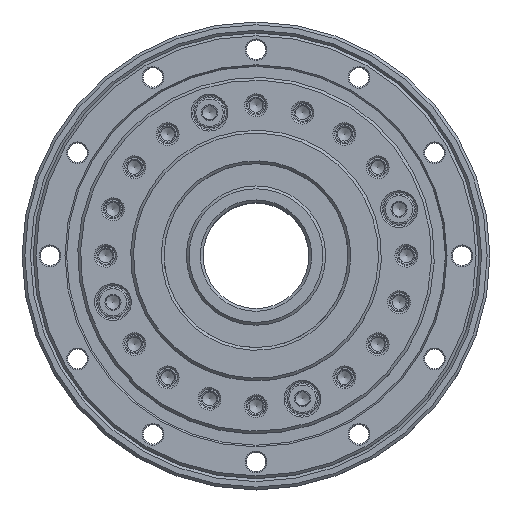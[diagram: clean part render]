
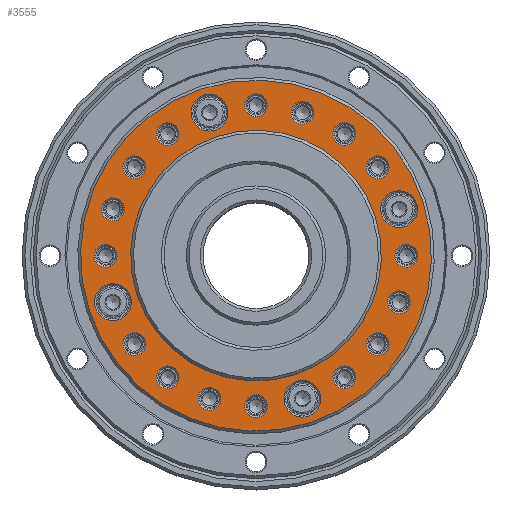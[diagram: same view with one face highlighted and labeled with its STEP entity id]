
A CAD part, top view. The second image highlights one B-rep face of the part: STEP entity #3555.
In plain terms, the highlighted planar face has unit normal (0, 0, 1).
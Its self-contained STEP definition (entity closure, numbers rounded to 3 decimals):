
#3555=ADVANCED_FACE('',(#5006,#5007,#5008,#5009,#5010,#5011,#5012,#5013,
#5014,#5015,#5016,#5017,#5018,#5019,#5020,#5021,#5022,#5023,#5024,#5025,
#5026,#5027),#3922,.T.);
#3922=PLANE('',#14643);
#5006=FACE_BOUND('',#6643,.T.);
#5007=FACE_BOUND('',#6644,.T.);
#5008=FACE_BOUND('',#6645,.T.);
#5009=FACE_BOUND('',#6646,.T.);
#5010=FACE_BOUND('',#6647,.T.);
#5011=FACE_BOUND('',#6648,.T.);
#5012=FACE_BOUND('',#6649,.T.);
#5013=FACE_BOUND('',#6650,.T.);
#5014=FACE_BOUND('',#6651,.T.);
#5015=FACE_BOUND('',#6652,.T.);
#5016=FACE_BOUND('',#6653,.T.);
#5017=FACE_BOUND('',#6654,.T.);
#5018=FACE_BOUND('',#6655,.T.);
#5019=FACE_BOUND('',#6656,.T.);
#5020=FACE_BOUND('',#6657,.T.);
#5021=FACE_BOUND('',#6658,.T.);
#5022=FACE_BOUND('',#6659,.T.);
#5023=FACE_BOUND('',#6660,.T.);
#5024=FACE_BOUND('',#6661,.T.);
#5025=FACE_BOUND('',#6662,.T.);
#5026=FACE_BOUND('',#6663,.T.);
#5027=FACE_BOUND('',#6664,.T.);
#6643=EDGE_LOOP('',(#9169));
#6644=EDGE_LOOP('',(#9170));
#6645=EDGE_LOOP('',(#9171));
#6646=EDGE_LOOP('',(#9172));
#6647=EDGE_LOOP('',(#9173));
#6648=EDGE_LOOP('',(#9174));
#6649=EDGE_LOOP('',(#9175));
#6650=EDGE_LOOP('',(#9176));
#6651=EDGE_LOOP('',(#9177));
#6652=EDGE_LOOP('',(#9178));
#6653=EDGE_LOOP('',(#9179));
#6654=EDGE_LOOP('',(#9180));
#6655=EDGE_LOOP('',(#9181));
#6656=EDGE_LOOP('',(#9182));
#6657=EDGE_LOOP('',(#9183));
#6658=EDGE_LOOP('',(#9184));
#6659=EDGE_LOOP('',(#9185));
#6660=EDGE_LOOP('',(#9186));
#6661=EDGE_LOOP('',(#9187));
#6662=EDGE_LOOP('',(#9188));
#6663=EDGE_LOOP('',(#9189));
#6664=EDGE_LOOP('',(#9190));
#9169=ORIENTED_EDGE('',*,*,#11995,.T.);
#9170=ORIENTED_EDGE('',*,*,#11996,.T.);
#9171=ORIENTED_EDGE('',*,*,#11997,.T.);
#9172=ORIENTED_EDGE('',*,*,#11998,.T.);
#9173=ORIENTED_EDGE('',*,*,#11999,.T.);
#9174=ORIENTED_EDGE('',*,*,#12000,.T.);
#9175=ORIENTED_EDGE('',*,*,#12001,.T.);
#9176=ORIENTED_EDGE('',*,*,#12002,.T.);
#9177=ORIENTED_EDGE('',*,*,#12003,.T.);
#9178=ORIENTED_EDGE('',*,*,#12004,.T.);
#9179=ORIENTED_EDGE('',*,*,#12005,.T.);
#9180=ORIENTED_EDGE('',*,*,#12006,.T.);
#9181=ORIENTED_EDGE('',*,*,#12007,.T.);
#9182=ORIENTED_EDGE('',*,*,#12008,.T.);
#9183=ORIENTED_EDGE('',*,*,#12009,.T.);
#9184=ORIENTED_EDGE('',*,*,#12010,.T.);
#9185=ORIENTED_EDGE('',*,*,#12011,.T.);
#9186=ORIENTED_EDGE('',*,*,#12012,.T.);
#9187=ORIENTED_EDGE('',*,*,#12013,.T.);
#9188=ORIENTED_EDGE('',*,*,#12014,.T.);
#9189=ORIENTED_EDGE('',*,*,#12015,.T.);
#9190=ORIENTED_EDGE('',*,*,#12016,.F.);
#10697=VERTEX_POINT('',#33602);
#10698=VERTEX_POINT('',#33604);
#10699=VERTEX_POINT('',#33606);
#10700=VERTEX_POINT('',#33608);
#10701=VERTEX_POINT('',#33610);
#10702=VERTEX_POINT('',#33612);
#10703=VERTEX_POINT('',#33614);
#10704=VERTEX_POINT('',#33616);
#10705=VERTEX_POINT('',#33618);
#10706=VERTEX_POINT('',#33620);
#10707=VERTEX_POINT('',#33622);
#10708=VERTEX_POINT('',#33624);
#10709=VERTEX_POINT('',#33626);
#10710=VERTEX_POINT('',#33628);
#10711=VERTEX_POINT('',#33630);
#10712=VERTEX_POINT('',#33632);
#10713=VERTEX_POINT('',#33634);
#10714=VERTEX_POINT('',#33636);
#10715=VERTEX_POINT('',#33638);
#10716=VERTEX_POINT('',#33640);
#10717=VERTEX_POINT('',#33642);
#10718=VERTEX_POINT('',#33644);
#11995=EDGE_CURVE('',#10697,#10697,#13024,.T.);
#11996=EDGE_CURVE('',#10698,#10698,#13025,.T.);
#11997=EDGE_CURVE('',#10699,#10699,#13026,.T.);
#11998=EDGE_CURVE('',#10700,#10700,#13027,.T.);
#11999=EDGE_CURVE('',#10701,#10701,#13028,.T.);
#12000=EDGE_CURVE('',#10702,#10702,#13029,.T.);
#12001=EDGE_CURVE('',#10703,#10703,#13030,.T.);
#12002=EDGE_CURVE('',#10704,#10704,#13031,.T.);
#12003=EDGE_CURVE('',#10705,#10705,#13032,.T.);
#12004=EDGE_CURVE('',#10706,#10706,#13033,.T.);
#12005=EDGE_CURVE('',#10707,#10707,#13034,.T.);
#12006=EDGE_CURVE('',#10708,#10708,#13035,.T.);
#12007=EDGE_CURVE('',#10709,#10709,#13036,.T.);
#12008=EDGE_CURVE('',#10710,#10710,#13037,.T.);
#12009=EDGE_CURVE('',#10711,#10711,#13038,.T.);
#12010=EDGE_CURVE('',#10712,#10712,#13039,.T.);
#12011=EDGE_CURVE('',#10713,#10713,#13040,.T.);
#12012=EDGE_CURVE('',#10714,#10714,#13041,.T.);
#12013=EDGE_CURVE('',#10715,#10715,#13042,.T.);
#12014=EDGE_CURVE('',#10716,#10716,#13043,.T.);
#12015=EDGE_CURVE('',#10717,#10717,#13044,.T.);
#12016=EDGE_CURVE('',#10718,#10718,#13045,.T.);
#13024=CIRCLE('',#14621,2.05);
#13025=CIRCLE('',#14622,2.05);
#13026=CIRCLE('',#14623,2.05);
#13027=CIRCLE('',#14624,2.05);
#13028=CIRCLE('',#14625,2.05);
#13029=CIRCLE('',#14626,2.05);
#13030=CIRCLE('',#14627,2.05);
#13031=CIRCLE('',#14628,2.05);
#13032=CIRCLE('',#14629,2.05);
#13033=CIRCLE('',#14630,2.05);
#13034=CIRCLE('',#14631,2.05);
#13035=CIRCLE('',#14632,2.05);
#13036=CIRCLE('',#14633,2.05);
#13037=CIRCLE('',#14634,2.05);
#13038=CIRCLE('',#14635,2.05);
#13039=CIRCLE('',#14636,2.05);
#13040=CIRCLE('',#14637,3.3);
#13041=CIRCLE('',#14638,3.3);
#13042=CIRCLE('',#14639,3.3);
#13043=CIRCLE('',#14640,3.3);
#13044=CIRCLE('',#14641,31.5);
#13045=CIRCLE('',#14642,22.5);
#14621=AXIS2_PLACEMENT_3D('',#33601,#17976,#17977);
#14622=AXIS2_PLACEMENT_3D('',#33603,#17978,#17979);
#14623=AXIS2_PLACEMENT_3D('',#33605,#17980,#17981);
#14624=AXIS2_PLACEMENT_3D('',#33607,#17982,#17983);
#14625=AXIS2_PLACEMENT_3D('',#33609,#17984,#17985);
#14626=AXIS2_PLACEMENT_3D('',#33611,#17986,#17987);
#14627=AXIS2_PLACEMENT_3D('',#33613,#17988,#17989);
#14628=AXIS2_PLACEMENT_3D('',#33615,#17990,#17991);
#14629=AXIS2_PLACEMENT_3D('',#33617,#17992,#17993);
#14630=AXIS2_PLACEMENT_3D('',#33619,#17994,#17995);
#14631=AXIS2_PLACEMENT_3D('',#33621,#17996,#17997);
#14632=AXIS2_PLACEMENT_3D('',#33623,#17998,#17999);
#14633=AXIS2_PLACEMENT_3D('',#33625,#18000,#18001);
#14634=AXIS2_PLACEMENT_3D('',#33627,#18002,#18003);
#14635=AXIS2_PLACEMENT_3D('',#33629,#18004,#18005);
#14636=AXIS2_PLACEMENT_3D('',#33631,#18006,#18007);
#14637=AXIS2_PLACEMENT_3D('',#33633,#18008,#18009);
#14638=AXIS2_PLACEMENT_3D('',#33635,#18010,#18011);
#14639=AXIS2_PLACEMENT_3D('',#33637,#18012,#18013);
#14640=AXIS2_PLACEMENT_3D('',#33639,#18014,#18015);
#14641=AXIS2_PLACEMENT_3D('',#33641,#18016,#18017);
#14642=AXIS2_PLACEMENT_3D('',#33643,#18018,#18019);
#14643=AXIS2_PLACEMENT_3D('',#33645,#18020,#18021);
#17976=DIRECTION('',(0.,0.,-1.));
#17977=DIRECTION('',(1.,0.,0.));
#17978=DIRECTION('',(0.,0.,-1.));
#17979=DIRECTION('',(1.,0.,0.));
#17980=DIRECTION('',(0.,0.,-1.));
#17981=DIRECTION('',(1.,0.,0.));
#17982=DIRECTION('',(0.,0.,-1.));
#17983=DIRECTION('',(1.,0.,0.));
#17984=DIRECTION('',(0.,0.,-1.));
#17985=DIRECTION('',(1.,0.,0.));
#17986=DIRECTION('',(0.,0.,-1.));
#17987=DIRECTION('',(1.,0.,0.));
#17988=DIRECTION('',(0.,0.,-1.));
#17989=DIRECTION('',(1.,0.,0.));
#17990=DIRECTION('',(0.,0.,-1.));
#17991=DIRECTION('',(1.,0.,0.));
#17992=DIRECTION('',(0.,0.,-1.));
#17993=DIRECTION('',(1.,0.,0.));
#17994=DIRECTION('',(0.,0.,-1.));
#17995=DIRECTION('',(1.,0.,0.));
#17996=DIRECTION('',(0.,0.,-1.));
#17997=DIRECTION('',(1.,0.,0.));
#17998=DIRECTION('',(0.,0.,-1.));
#17999=DIRECTION('',(1.,0.,0.));
#18000=DIRECTION('',(0.,0.,-1.));
#18001=DIRECTION('',(1.,0.,0.));
#18002=DIRECTION('',(0.,0.,-1.));
#18003=DIRECTION('',(1.,0.,0.));
#18004=DIRECTION('',(0.,0.,-1.));
#18005=DIRECTION('',(1.,0.,0.));
#18006=DIRECTION('',(0.,0.,-1.));
#18007=DIRECTION('',(1.,0.,0.));
#18008=DIRECTION('',(0.,0.,-1.));
#18009=DIRECTION('',(1.,0.,0.));
#18010=DIRECTION('',(0.,0.,-1.));
#18011=DIRECTION('',(1.,0.,0.));
#18012=DIRECTION('',(0.,0.,-1.));
#18013=DIRECTION('',(1.,0.,0.));
#18014=DIRECTION('',(0.,0.,-1.));
#18015=DIRECTION('',(1.,0.,0.));
#18016=DIRECTION('',(0.,0.,1.));
#18017=DIRECTION('',(1.,0.,0.));
#18018=DIRECTION('',(0.,0.,1.));
#18019=DIRECTION('',(1.,0.,0.));
#18020=DIRECTION('',(0.,0.,1.));
#18021=DIRECTION('',(1.,0.,0.));
#33601=CARTESIAN_POINT('',(8.343,25.679,8.5));
#33602=CARTESIAN_POINT('',(10.393,25.679,8.5));
#33603=CARTESIAN_POINT('',(15.87,21.843,8.5));
#33604=CARTESIAN_POINT('',(17.92,21.843,8.5));
#33605=CARTESIAN_POINT('',(21.843,15.87,8.5));
#33606=CARTESIAN_POINT('',(23.893,15.87,8.5));
#33607=CARTESIAN_POINT('',(25.679,8.343,8.5));
#33608=CARTESIAN_POINT('',(27.729,8.343,8.5));
#33609=CARTESIAN_POINT('',(25.679,-8.343,8.5));
#33610=CARTESIAN_POINT('',(27.729,-8.343,8.5));
#33611=CARTESIAN_POINT('',(21.843,-15.87,8.5));
#33612=CARTESIAN_POINT('',(23.893,-15.87,8.5));
#33613=CARTESIAN_POINT('',(15.87,-21.843,8.5));
#33614=CARTESIAN_POINT('',(17.92,-21.843,8.5));
#33615=CARTESIAN_POINT('',(8.343,-25.679,8.5));
#33616=CARTESIAN_POINT('',(10.393,-25.679,8.5));
#33617=CARTESIAN_POINT('',(-8.343,-25.679,8.5));
#33618=CARTESIAN_POINT('',(-6.293,-25.679,8.5));
#33619=CARTESIAN_POINT('',(-15.87,-21.843,8.5));
#33620=CARTESIAN_POINT('',(-13.82,-21.843,8.5));
#33621=CARTESIAN_POINT('',(-21.843,-15.87,8.5));
#33622=CARTESIAN_POINT('',(-19.793,-15.87,8.5));
#33623=CARTESIAN_POINT('',(-25.679,-8.343,8.5));
#33624=CARTESIAN_POINT('',(-23.629,-8.343,8.5));
#33625=CARTESIAN_POINT('',(-25.679,8.343,8.5));
#33626=CARTESIAN_POINT('',(-23.629,8.343,8.5));
#33627=CARTESIAN_POINT('',(-21.843,15.87,8.5));
#33628=CARTESIAN_POINT('',(-19.793,15.87,8.5));
#33629=CARTESIAN_POINT('',(-15.87,21.843,8.5));
#33630=CARTESIAN_POINT('',(-13.82,21.843,8.5));
#33631=CARTESIAN_POINT('',(-8.343,25.679,8.5));
#33632=CARTESIAN_POINT('',(-6.293,25.679,8.5));
#33633=CARTESIAN_POINT('',(0.,27.,8.5));
#33634=CARTESIAN_POINT('',(3.3,27.,8.5));
#33635=CARTESIAN_POINT('',(27.,0.,8.5));
#33636=CARTESIAN_POINT('',(30.3,0.,8.5));
#33637=CARTESIAN_POINT('',(0.,-27.,8.5));
#33638=CARTESIAN_POINT('',(3.3,-27.,8.5));
#33639=CARTESIAN_POINT('',(-27.,0.,8.5));
#33640=CARTESIAN_POINT('',(-23.7,0.,8.5));
#33641=CARTESIAN_POINT('',(0.,0.,8.5));
#33642=CARTESIAN_POINT('',(31.5,0.,8.5));
#33643=CARTESIAN_POINT('',(0.,0.,8.5));
#33644=CARTESIAN_POINT('',(22.5,0.,8.5));
#33645=CARTESIAN_POINT('',(13.5,0.,8.5));
